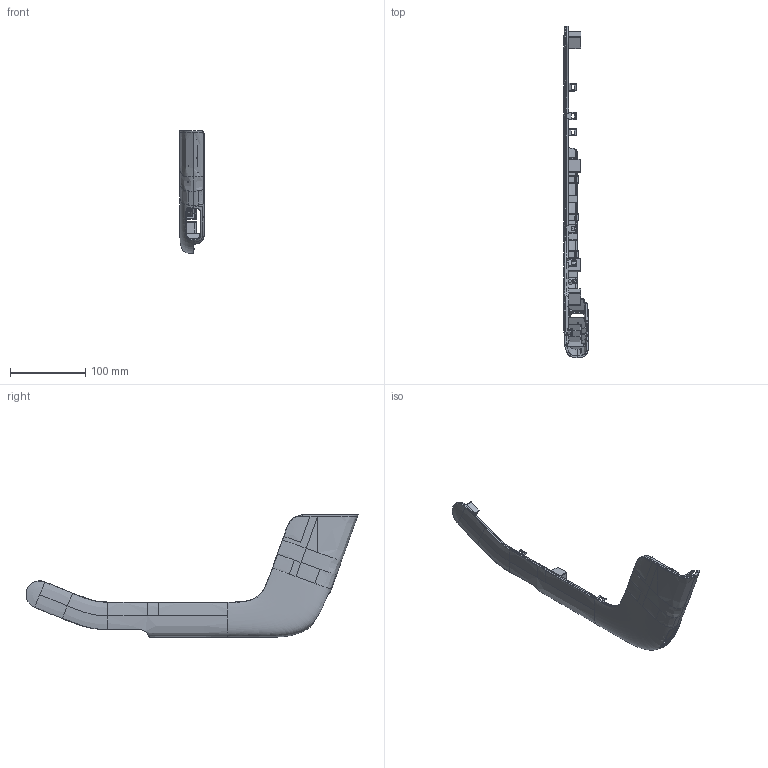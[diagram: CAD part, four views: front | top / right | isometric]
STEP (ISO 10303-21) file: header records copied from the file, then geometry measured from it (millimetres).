
FILE_DESCRIPTION((''),'2;1');
FILE_NAME('YC_SJ_ZS001301_01','2026-03-20T10:55:09',('casson.cai'),(''),'CREO PARAMETRIC BY PTC INC, 2022164','CREO PARAMETRIC BY PTC INC, 2022164','');
FILE_SCHEMA(('CONFIG_CONTROL_DESIGN'));
Products named in the file (1): YC_SJ_ZS001301_01
Bounding box: 32.3 x 442.32 x 163.62 mm (x, y, z)
Volume: 99263.4 mm3; surface area: 97312.4 mm2
Topology: 1 solids, 1 shells, 994 faces, 2788 edges, 1795 vertices
Faces by surface type: plane 545, bspline 213, extrusion 110, cylinder 101, cone 18, revolution 5, torus 2
Entity records: 101558 total; most frequent: CARTESIAN_POINT 78552, ORIENTED_EDGE 5572, DIRECTION 3375, EDGE_CURVE 2786, VERTEX_POINT 1795, VECTOR 1722, LINE 1612, B_SPLINE_CURVE_WITH_KNOTS 1131
